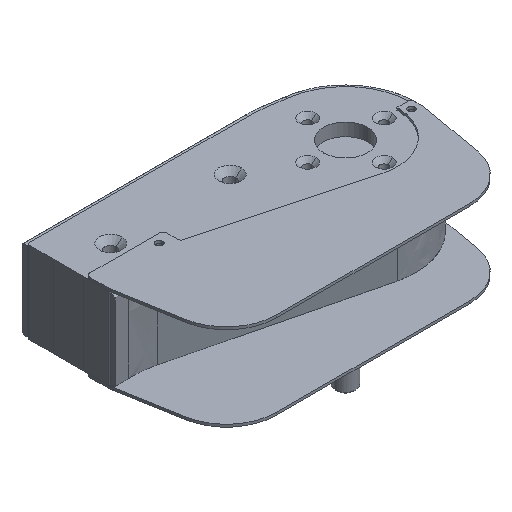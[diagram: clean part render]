
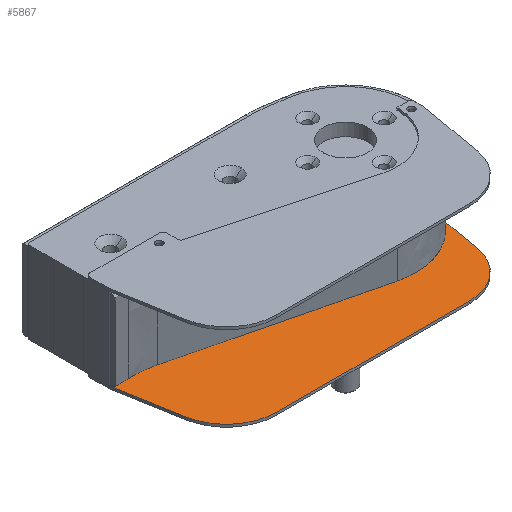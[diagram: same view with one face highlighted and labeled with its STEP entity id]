
A CAD part, isometric view. The second image highlights one B-rep face of the part: STEP entity #5867.
In plain terms, the highlighted planar face has unit normal (0, 0, 1).
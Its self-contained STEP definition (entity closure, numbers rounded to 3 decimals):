
#261 = CARTESIAN_POINT ( 'NONE',  ( -149.575, -94.941, -65. ) ) ;
#288 = EDGE_CURVE ( 'NONE', #5576, #4034, #7034, .T. ) ;
#376 = DIRECTION ( 'NONE',  ( 1., 0., 0. ) ) ;
#491 = DIRECTION ( 'NONE',  ( 0., 0., 1. ) ) ;
#610 = EDGE_CURVE ( 'NONE', #8994, #3042, #9047, .T. ) ;
#624 = ORIENTED_EDGE ( 'NONE', *, *, #2094, .F. ) ;
#729 = ORIENTED_EDGE ( 'NONE', *, *, #9819, .F. ) ;
#806 = LINE ( 'NONE', #2347, #6160 ) ;
#820 = CARTESIAN_POINT ( 'NONE',  ( 49.057, -2.969, -65. ) ) ;
#823 = CARTESIAN_POINT ( 'NONE',  ( -196.954, -9.889, -65. ) ) ;
#852 = CARTESIAN_POINT ( 'NONE',  ( -149.575, -94.941, -65. ) ) ;
#994 = ORIENTED_EDGE ( 'NONE', *, *, #9589, .T. ) ;
#1105 = CARTESIAN_POINT ( 'NONE',  ( 52.057, -9.969, -65. ) ) ;
#1127 = ORIENTED_EDGE ( 'NONE', *, *, #9152, .T. ) ;
#1388 = DIRECTION ( 'NONE',  ( 1., 0., 0. ) ) ;
#1419 = FACE_OUTER_BOUND ( 'NONE', #4849, .T. ) ;
#1541 = DIRECTION ( 'NONE',  ( 1., 0., 0. ) ) ;
#1583 = CARTESIAN_POINT ( 'NONE',  ( -196.954, -10.889, -65. ) ) ;
#1588 = CIRCLE ( 'NONE', #9086, 1. ) ;
#1840 = CARTESIAN_POINT ( 'NONE',  ( -13.475, -50.276, -65. ) ) ;
#1920 = AXIS2_PLACEMENT_3D ( 'NONE', #9297, #491, #4023 ) ;
#2048 = AXIS2_PLACEMENT_3D ( 'NONE', #5093, #6757, #1541 ) ;
#2075 = VERTEX_POINT ( 'NONE', #5866 ) ;
#2094 = EDGE_CURVE ( 'NONE', #3057, #2075, #9078, .T. ) ;
#2139 = CARTESIAN_POINT ( 'NONE',  ( -197.954, -9.896, -65. ) ) ;
#2347 = CARTESIAN_POINT ( 'NONE',  ( -197.954, -10.889, -65. ) ) ;
#2385 = VERTEX_POINT ( 'NONE', #261 ) ;
#2392 = CARTESIAN_POINT ( 'NONE',  ( 52.057, -2.969, -65. ) ) ;
#2760 = AXIS2_PLACEMENT_3D ( 'NONE', #820, #11243, #5985 ) ;
#2784 = VERTEX_POINT ( 'NONE', #11069 ) ;
#2814 = ORIENTED_EDGE ( 'NONE', *, *, #9054, .T. ) ;
#2998 = AXIS2_PLACEMENT_3D ( 'NONE', #10765, #7186, #9858 ) ;
#3042 = VERTEX_POINT ( 'NONE', #4402 ) ;
#3057 = VERTEX_POINT ( 'NONE', #1840 ) ;
#3481 = CARTESIAN_POINT ( 'NONE',  ( -149.573, -54.941, -65. ) ) ;
#3510 = DIRECTION ( 'NONE',  ( 1., 0., 0. ) ) ;
#3529 = EDGE_CURVE ( 'NONE', #11163, #5576, #9699, .T. ) ;
#3606 = ORIENTED_EDGE ( 'NONE', *, *, #288, .F. ) ;
#3632 = DIRECTION ( 'NONE',  ( 1., 0., 0. ) ) ;
#3687 = DIRECTION ( 'NONE',  ( 1., 0., 0. ) ) ;
#3857 = DIRECTION ( 'NONE',  ( 1., 0., 0. ) ) ;
#4023 = DIRECTION ( 'NONE',  ( 1., 0., 0. ) ) ;
#4034 = VERTEX_POINT ( 'NONE', #5285 ) ;
#4132 = VECTOR ( 'NONE', #6610, 1000. ) ;
#4215 = DIRECTION ( 'NONE',  ( 0., -1., 0. ) ) ;
#4239 = LINE ( 'NONE', #4281, #9338 ) ;
#4281 = CARTESIAN_POINT ( 'NONE',  ( 42.897, -61.898, -65. ) ) ;
#4364 = VECTOR ( 'NONE', #3687, 1000. ) ;
#4402 = CARTESIAN_POINT ( 'NONE',  ( 52.057, -2.969, -65. ) ) ;
#4849 = EDGE_LOOP ( 'NONE', ( #624, #8818, #3606, #10651, #729, #2814, #7908, #10065, #1127, #8011, #7846, #7864, #5939, #994 ) ) ;
#4850 = CARTESIAN_POINT ( 'NONE',  ( 3.505, -54.95, -65. ) ) ;
#4953 = DIRECTION ( 'NONE',  ( 0., 0., 1. ) ) ;
#5093 = CARTESIAN_POINT ( 'NONE',  ( -139.953, 5.058, -65. ) ) ;
#5285 = CARTESIAN_POINT ( 'NONE',  ( -150.692, -13.499, -65. ) ) ;
#5519 = EDGE_CURVE ( 'NONE', #3042, #7648, #7869, .T. ) ;
#5547 = VECTOR ( 'NONE', #376, 1000. ) ;
#5576 = VERTEX_POINT ( 'NONE', #7862 ) ;
#5790 = CARTESIAN_POINT ( 'NONE',  ( -150.692, -13.499, -65. ) ) ;
#5866 = CARTESIAN_POINT ( 'NONE',  ( 51.996, -2.366, -65. ) ) ;
#5867 = ADVANCED_FACE ( 'NONE', ( #1419 ), #6797, .F. ) ;
#5939 = ORIENTED_EDGE ( 'NONE', *, *, #5519, .T. ) ;
#5985 = DIRECTION ( 'NONE',  ( 1., 0., 0. ) ) ;
#6127 = DIRECTION ( 'NONE',  ( 0., 0., 1. ) ) ;
#6160 = VECTOR ( 'NONE', #6718, 1000. ) ;
#6393 = AXIS2_PLACEMENT_3D ( 'NONE', #4850, #4953, #1388 ) ;
#6488 = LINE ( 'NONE', #5790, #4132 ) ;
#6610 = DIRECTION ( 'NONE',  ( 0.966, -0.259, 0. ) ) ;
#6718 = DIRECTION ( 'NONE',  ( 0.174, -0.985, 0. ) ) ;
#6757 = DIRECTION ( 'NONE',  ( 0., 0., -1. ) ) ;
#6797 = PLANE ( 'NONE',  #2048 ) ;
#6955 = CARTESIAN_POINT ( 'NONE',  ( -197.954, -10.889, -65. ) ) ;
#7034 = CIRCLE ( 'NONE', #9195, 99.342 ) ;
#7186 = DIRECTION ( 'NONE',  ( 0., 0., 1. ) ) ;
#7226 = LINE ( 'NONE', #9493, #8888 ) ;
#7228 = DIRECTION ( 'NONE',  ( 0., 1., 0. ) ) ;
#7431 = EDGE_CURVE ( 'NONE', #4034, #3057, #6488, .T. ) ;
#7648 = VERTEX_POINT ( 'NONE', #2392 ) ;
#7846 = ORIENTED_EDGE ( 'NONE', *, *, #8136, .T. ) ;
#7862 = CARTESIAN_POINT ( 'NONE',  ( -176.574, -10.89, -65. ) ) ;
#7864 = ORIENTED_EDGE ( 'NONE', *, *, #610, .T. ) ;
#7867 = DIRECTION ( 'NONE',  ( 0., 0., 1. ) ) ;
#7869 = CIRCLE ( 'NONE', #2760, 3. ) ;
#7908 = ORIENTED_EDGE ( 'NONE', *, *, #8893, .T. ) ;
#8011 = ORIENTED_EDGE ( 'NONE', *, *, #10989, .T. ) ;
#8136 = EDGE_CURVE ( 'NONE', #11262, #8994, #4239, .T. ) ;
#8222 = CARTESIAN_POINT ( 'NONE',  ( -173.511, -110.185, -65. ) ) ;
#8818 = ORIENTED_EDGE ( 'NONE', *, *, #7431, .F. ) ;
#8888 = VECTOR ( 'NONE', #4215, 1000. ) ;
#8893 = EDGE_CURVE ( 'NONE', #9847, #10094, #806, .T. ) ;
#8994 = VERTEX_POINT ( 'NONE', #9334 ) ;
#9047 = LINE ( 'NONE', #1105, #9615 ) ;
#9054 = EDGE_CURVE ( 'NONE', #10849, #9847, #7226, .T. ) ;
#9078 = CIRCLE ( 'NONE', #1920, 52.05 ) ;
#9086 = AXIS2_PLACEMENT_3D ( 'NONE', #823, #7867, #3510 ) ;
#9125 = DIRECTION ( 'NONE',  ( 0., 0., -1. ) ) ;
#9152 = EDGE_CURVE ( 'NONE', #2385, #2784, #9735, .T. ) ;
#9195 = AXIS2_PLACEMENT_3D ( 'NONE', #8222, #9125, #3857 ) ;
#9297 = CARTESIAN_POINT ( 'NONE',  ( 0., 0., -65. ) ) ;
#9334 = CARTESIAN_POINT ( 'NONE',  ( 52.057, -9.969, -65. ) ) ;
#9338 = VECTOR ( 'NONE', #10441, 1000. ) ;
#9388 = AXIS2_PLACEMENT_3D ( 'NONE', #3481, #6127, #3632 ) ;
#9493 = CARTESIAN_POINT ( 'NONE',  ( -197.953, 5.062, -65. ) ) ;
#9589 = EDGE_CURVE ( 'NONE', #7648, #2075, #9850, .T. ) ;
#9615 = VECTOR ( 'NONE', #7228, 1000. ) ;
#9699 = LINE ( 'NONE', #9982, #5547 ) ;
#9735 = LINE ( 'NONE', #852, #4364 ) ;
#9799 = CIRCLE ( 'NONE', #9388, 40. ) ;
#9819 = EDGE_CURVE ( 'NONE', #10849, #11163, #1588, .T. ) ;
#9847 = VERTEX_POINT ( 'NONE', #6955 ) ;
#9850 = CIRCLE ( 'NONE', #2998, 3. ) ;
#9858 = DIRECTION ( 'NONE',  ( 1., 0., 0. ) ) ;
#9879 = CARTESIAN_POINT ( 'NONE',  ( -188.966, -61.885, -65. ) ) ;
#9982 = CARTESIAN_POINT ( 'NONE',  ( -196.954, -10.889, -65. ) ) ;
#10065 = ORIENTED_EDGE ( 'NONE', *, *, #11304, .T. ) ;
#10094 = VERTEX_POINT ( 'NONE', #9879 ) ;
#10341 = CARTESIAN_POINT ( 'NONE',  ( 42.897, -61.898, -65. ) ) ;
#10441 = DIRECTION ( 'NONE',  ( 0.174, 0.985, 0. ) ) ;
#10651 = ORIENTED_EDGE ( 'NONE', *, *, #3529, .F. ) ;
#10765 = CARTESIAN_POINT ( 'NONE',  ( 49.057, -2.969, -65. ) ) ;
#10767 = CIRCLE ( 'NONE', #6393, 40. ) ;
#10849 = VERTEX_POINT ( 'NONE', #2139 ) ;
#10989 = EDGE_CURVE ( 'NONE', #2784, #11262, #10767, .T. ) ;
#11069 = CARTESIAN_POINT ( 'NONE',  ( 3.503, -94.95, -65. ) ) ;
#11163 = VERTEX_POINT ( 'NONE', #1583 ) ;
#11243 = DIRECTION ( 'NONE',  ( 0., 0., 1. ) ) ;
#11262 = VERTEX_POINT ( 'NONE', #10341 ) ;
#11304 = EDGE_CURVE ( 'NONE', #10094, #2385, #9799, .T. ) ;
